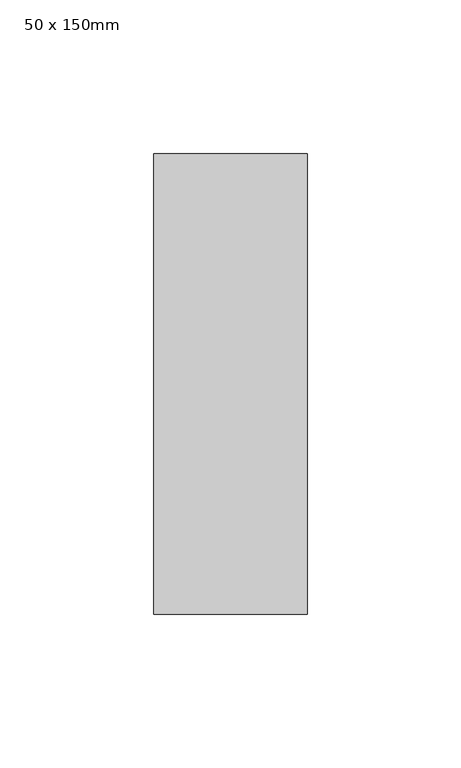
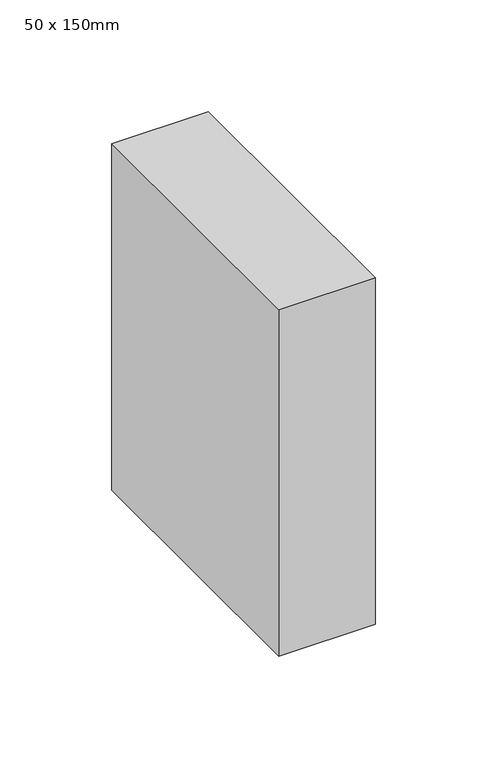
"""IFC4 building model written with IfcOpenShell, lengths in millimetres: member geometry, Прямоугольный импост : 50 x 150mm."""

from ifc_helpers import new_model, si_unit, frame, origin, place, context, project, spatial, polyline, outline, extrude, source, transform, mapped, element, save


def member_50_x_150mm_94db68ab(model_context):
    return source(origin(), model_context, "Body", "SweptSolid", [
        extrude(outline(polyline([(0.0, 75.0), (0.0, -75.0), (-50.0, -75.0), (-50.0, 75.0), (0.0, 75.0)])), frame((0.0, 0.0, -189.7401938), z_axis=(0.0, 0.0, 1.0), x_axis=(1.0, 0.0, 0.0)), (0.0, 0.0, 1.0), 189.7401938),
    ])


if __name__ == "__main__":
    model = new_model("IFC4")
    model_context = context("Model", 3, world=origin())
    ifc_project = project(units=[si_unit("LENGTHUNIT", "METRE", prefix="MILLI")], contexts=[model_context])
    site = spatial("IfcSite", under=ifc_project)
    building = spatial("IfcBuilding", under=site)
    placement = place(None, origin())
    member_50_x_150mm_shape = member_50_x_150mm_94db68ab(model_context)
    element("IfcMember", 1, ObjectType="Прямоугольный импост : 50 x 150mm", at=placement, inside=building, context=model_context, shape_type="MappedRepresentation", body=[
        mapped(member_50_x_150mm_shape, transform((0.0, 0.0, 0.0), x_axis=(1.0, 0.0, 0.0), y_axis=(0.0, 1.0, 0.0), z_axis=(0.0, 0.0, 1.0))),
    ])
    save(model, "model.ifc")
